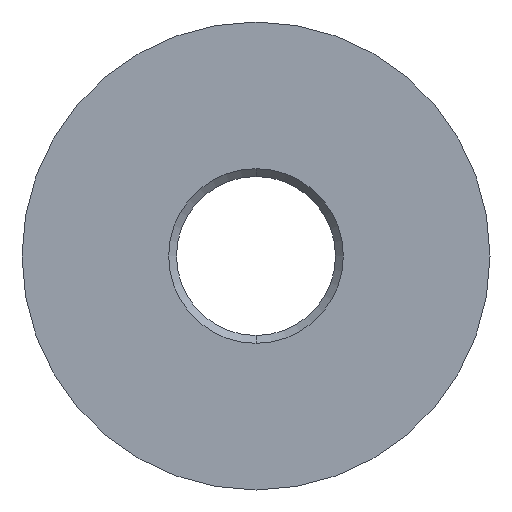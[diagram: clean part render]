
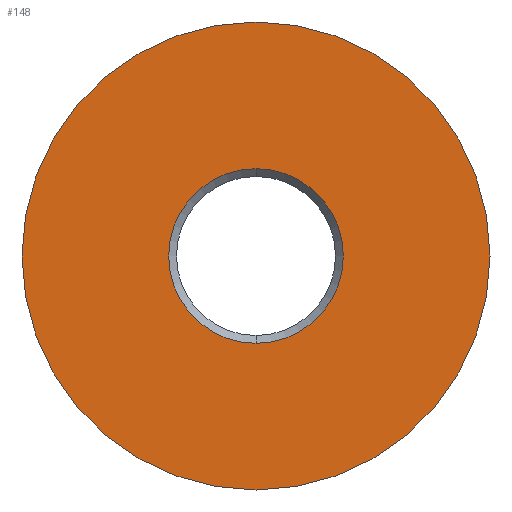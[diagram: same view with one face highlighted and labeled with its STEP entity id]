
A CAD part, front view. The second image highlights one B-rep face of the part: STEP entity #148.
In plain terms, the highlighted planar face has unit normal (0, -1, 0).
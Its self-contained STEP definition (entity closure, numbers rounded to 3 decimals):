
#5 = DIRECTION ( 'NONE',  ( 0., 1., 0. ) ) ;
#7 = CARTESIAN_POINT ( 'NONE',  ( 0., 0., 5.6 ) ) ;
#10 = CIRCLE ( 'NONE', #152, 5.6 ) ;
#39 = CIRCLE ( 'NONE', #302, 5.6 ) ;
#41 = CARTESIAN_POINT ( 'NONE',  ( 15.01, 0., 0. ) ) ;
#47 = AXIS2_PLACEMENT_3D ( 'NONE', #41, #223, #84 ) ;
#70 = CARTESIAN_POINT ( 'NONE',  ( 0., 0., -15.01 ) ) ;
#75 = AXIS2_PLACEMENT_3D ( 'NONE', #178, #265, #252 ) ;
#77 = DIRECTION ( 'NONE',  ( 0., -1., 0. ) ) ;
#83 = EDGE_CURVE ( 'NONE', #286, #145, #39, .T. ) ;
#84 = DIRECTION ( 'NONE',  ( 0., 0., -1. ) ) ;
#104 = VERTEX_POINT ( 'NONE', #277 ) ;
#116 = CIRCLE ( 'NONE', #147, 15.01 ) ;
#120 = DIRECTION ( 'NONE',  ( 0., 0., -1. ) ) ;
#122 = EDGE_LOOP ( 'NONE', ( #240, #497 ) ) ;
#140 = DIRECTION ( 'NONE',  ( 0., 0., -1. ) ) ;
#145 = VERTEX_POINT ( 'NONE', #261 ) ;
#147 = AXIS2_PLACEMENT_3D ( 'NONE', #352, #77, #120 ) ;
#148 = ADVANCED_FACE ( 'NONE', ( #290, #507 ), #311, .T. ) ;
#152 = AXIS2_PLACEMENT_3D ( 'NONE', #494, #314, #140 ) ;
#178 = CARTESIAN_POINT ( 'NONE',  ( 0., 0., 0. ) ) ;
#198 = EDGE_CURVE ( 'NONE', #104, #531, #273, .T. ) ;
#210 = EDGE_LOOP ( 'NONE', ( #489, #349 ) ) ;
#223 = DIRECTION ( 'NONE',  ( 0., -1., 0. ) ) ;
#227 = EDGE_CURVE ( 'NONE', #145, #286, #10, .T. ) ;
#237 = CARTESIAN_POINT ( 'NONE',  ( 0., 0., 0. ) ) ;
#240 = ORIENTED_EDGE ( 'NONE', *, *, #227, .T. ) ;
#252 = DIRECTION ( 'NONE',  ( 0., 0., -1. ) ) ;
#261 = CARTESIAN_POINT ( 'NONE',  ( 0., 0., -5.6 ) ) ;
#265 = DIRECTION ( 'NONE',  ( 0., -1., 0. ) ) ;
#273 = CIRCLE ( 'NONE', #75, 15.01 ) ;
#277 = CARTESIAN_POINT ( 'NONE',  ( 0., 0., 15.01 ) ) ;
#286 = VERTEX_POINT ( 'NONE', #7 ) ;
#290 = FACE_BOUND ( 'NONE', #122, .T. ) ;
#302 = AXIS2_PLACEMENT_3D ( 'NONE', #237, #5, #532 ) ;
#311 = PLANE ( 'NONE',  #47 ) ;
#314 = DIRECTION ( 'NONE',  ( 0., 1., 0. ) ) ;
#336 = EDGE_CURVE ( 'NONE', #531, #104, #116, .T. ) ;
#349 = ORIENTED_EDGE ( 'NONE', *, *, #198, .T. ) ;
#352 = CARTESIAN_POINT ( 'NONE',  ( 0., 0., 0. ) ) ;
#489 = ORIENTED_EDGE ( 'NONE', *, *, #336, .T. ) ;
#494 = CARTESIAN_POINT ( 'NONE',  ( 0., 0., 0. ) ) ;
#497 = ORIENTED_EDGE ( 'NONE', *, *, #83, .T. ) ;
#507 = FACE_OUTER_BOUND ( 'NONE', #210, .T. ) ;
#531 = VERTEX_POINT ( 'NONE', #70 ) ;
#532 = DIRECTION ( 'NONE',  ( 0., 0., -1. ) ) ;
